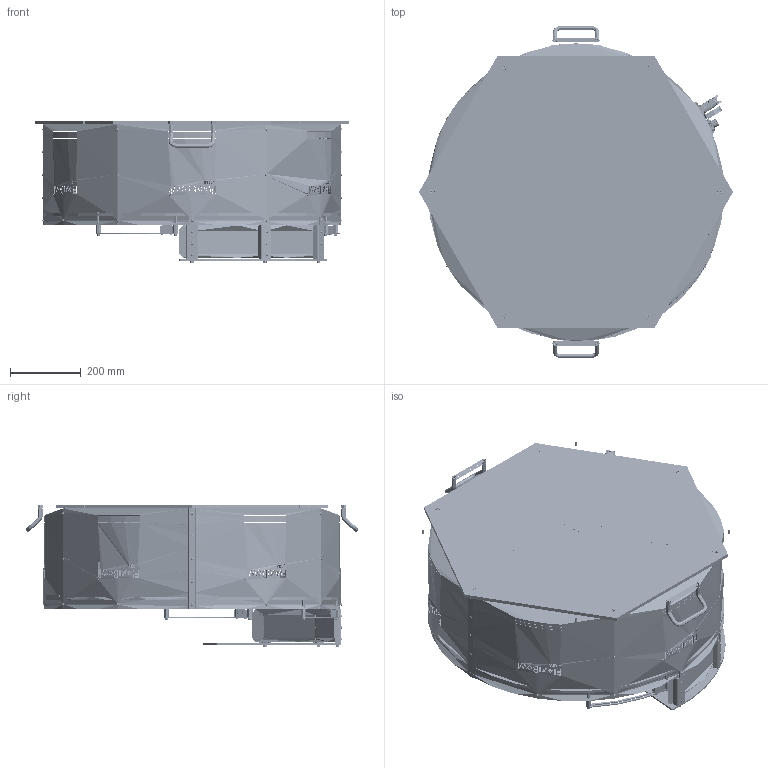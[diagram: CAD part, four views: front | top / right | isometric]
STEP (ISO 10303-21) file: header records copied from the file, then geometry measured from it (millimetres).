
FILE_DESCRIPTION (( 'STEP AP214' ), '1' );
FILE_NAME ('FB800CC.STEP', '2021-09-09T13:48:05', ( '' ), ( '' ), 'SwSTEP 2.0', 'SolidWorks 2020', '' );
FILE_SCHEMA (( 'AUTOMOTIVE_DESIGN' ));
Length unit declared in the file: millimetre
Products named in the file (85): CM000008_003; PD001426; CM000048; CM000166; Copia di Led RDY_FLT^CE000326; PD001585; PD001123; PD001356; Copia di 2 - Copia^CE000322; CM000024; CM000686; Copia di 39-01-2045^CE000326; Copia di 39-01-2025^CE000302; PD001583; CE000326; CM000050; PD001360_FB800; PD001640; CE000421; Copia di connector_a-ds_25_pp-f^CE000302; CE000007; CM000478; CM000686_002; CM000043; Copia di connector_amet-15rs^CE000302; CM000008; PD001063; Copia di Cavo line^CE000322; PD001101; PD001087; CE000316; CE000302; CM000006; Copia di 15 poli femmina^CE000302; CM000026; CE000327; PD002027; PD001736; CE000030; PD001119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
Assembly tree (202 placements, depth 3):
  FB800CC
    CM000032  x4
    CM000031  x9
    CM000170  x6
    CM000048  x29
    CM000114
    CM000478  x9
    CM000050  x3
    CM000166  x8
    CM000642  x4
    CM000035  x4
    CM000027  x4
    CM000025  x4
    CM000043  x2
    CM000026  x10
    CM000024  x10
    CM000006  x4
    PD001086
    CM000001  x2
    PD001440  x6
    PD001640
    PD001744
    PD001743
    PD001736  x2
    PD002029
    PD000137
    PD001063
    PD001585  x3
    PD001583  x3
    PD001087
    PD001101
    PD000043  x4
    PD001123  x2
    PD001119  x2
    PD001426
    PD001428
    PD001356
    PD000709
    PD001360_FB800
    CE000007
    CM000015  x2
      CM000015_001
      CM000015_002
    CE000013  x2
    CE000005
    CM000008
      CM000008_001
      CM000008_003  x2
      CM000008_002
      CM000008_004
      CM000008_005
    CE000302
      Copia di connector_a-ds_25_pp-f^CE000302
      Copia di 15 poli femmina^CE000302
      Copia di connector_amet-15rs^CE000302
      Copia di Connettore te 2 poli - Copia^CE000302
      Copia di 39-01-2025^CE000302
    CE000030  x2
    CE000316
    CM000686
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Bounding box: 890 x 940.65 x 402.5 mm (x, y, z)
Topology: 221 solids, 277 shells, 16351 faces, 42805 edges, 27239 vertices
Faces by surface type: plane 7376, cylinder 4388, bspline 2265, cone 1594, torus 652, sphere 76
Full cylindrical faces by diameter (mm): 2 x1, 7 x1, 13.175 x1
Entity records: 686217 total; most frequent: CARTESIAN_POINT 292318, ORIENTED_EDGE 72221, DIRECTION 58801, EDGE_CURVE 36316, VERTEX_POINT 23560, AXIS2_PLACEMENT_3D 21521, VECTOR 15759, LINE 15759
